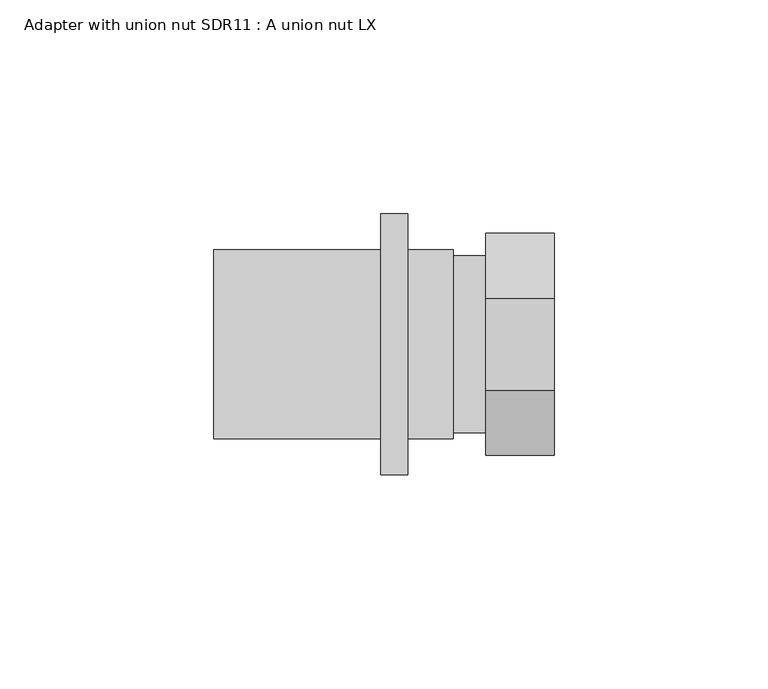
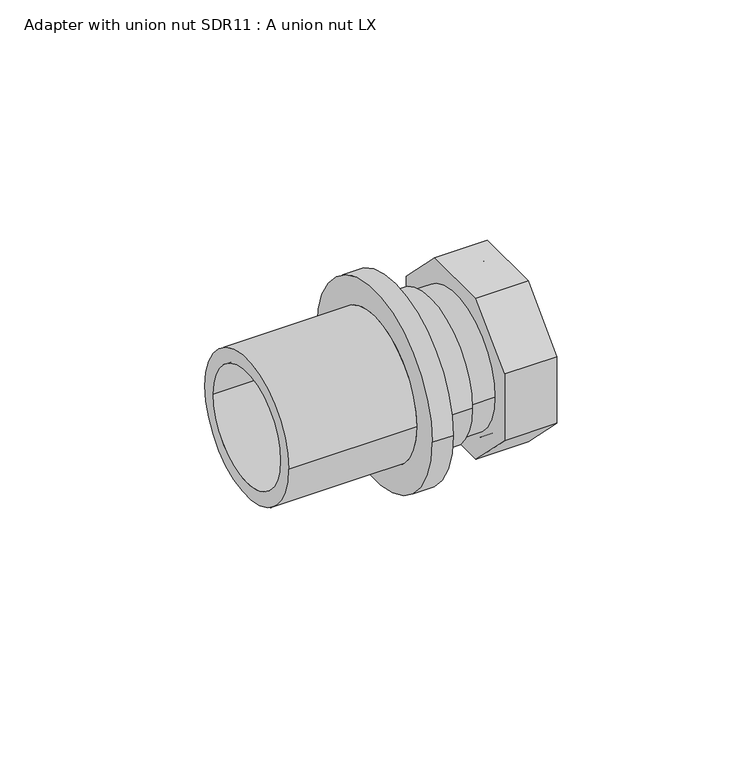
"""IFC4 building model written with IfcOpenShell, lengths in millimetres: pipe fitting geometry, Adapter with union nut SDR11 : A union nut LX."""

import ifcopenshell
import ifcopenshell.guid

model = None  # the IFC model being written
_history = None  # IfcOwnerHistory: only IFC2X3 demands one
_inside = {}  # id of a spatial element -> (the spatial element, [elements in it])
_under = {}  # id of a project, library or spatial element -> (it, [spatial elements below it])
_declared = {}  # id of a project -> (the project, [libraries it declares])
_typed = {}  # id of a type object -> (the type object, [elements of that type])
_made_of = {}  # id of a material, layer set ... -> (it, [elements and type objects made of it])


def new_model(schema):
    """Start an empty IFC model of exactly this schema.

    Asked for "IFC4X3", IfcOpenShell would pick the latest addendum, in which some entities
    have other attributes; the version numbers below select the first issue.
    IFC2X3 requires an IfcOwnerHistory on every rooted entity: one is made here for all.
    """
    global model, _history
    if schema == "IFC4X3":
        model = ifcopenshell.file(schema_version=(4, 3, 0, 0))
    else:
        model = ifcopenshell.file(schema=schema)
    _inside.clear()
    _under.clear()
    _declared.clear()
    _typed.clear()
    _made_of.clear()
    _history = None
    if model.schema == "IFC2X3":
        org = make("IfcOrganization", Name="unknown")
        user = make(
            "IfcPersonAndOrganization",
            ThePerson=make("IfcPerson", FamilyName="unknown"),
            TheOrganization=org,
        )
        app = make(
            "IfcApplication",
            ApplicationDeveloper=org,
            Version="unknown",
            ApplicationFullName="unknown",
            ApplicationIdentifier="unknown",
        )
        _history = make(
            "IfcOwnerHistory",
            OwningUser=user,
            OwningApplication=app,
            ChangeAction="ADDED",
            CreationDate=0,
        )
    return model


def make(cls, **values):
    """One entity of the class cls with the attributes given. An attribute that is None is left unset."""
    return model.create_entity(
        cls, **{name: value for name, value in values.items() if value is not None}
    )


def rooted(cls, **values):
    """An entity with a GlobalId (a new one), such as an element, a storey or a relation."""
    return make(cls, GlobalId=ifcopenshell.guid.new(), OwnerHistory=_history, **values)


def si_unit(unit_type, name, prefix=None):
    """IfcSIUnit, for example si_unit("LENGTHUNIT", "METRE", prefix="MILLI")."""
    return make("IfcSIUnit", UnitType=unit_type, Prefix=prefix, Name=name)


def assignment(units):
    """IfcUnitAssignment: the units of a project."""
    return None if units is None else make("IfcUnitAssignment", Units=units)


def point(xyz):
    """IfcCartesianPoint."""
    return None if xyz is None else make("IfcCartesianPoint", Coordinates=xyz)


def direction(xyz):
    """IfcDirection."""
    return None if xyz is None else make("IfcDirection", DirectionRatios=xyz)


def frame(location, z_axis=None, x_axis=None):
    """IfcAxis2Placement3D, a coordinate frame: its origin and axes. An axis left out is left unset."""
    return make(
        "IfcAxis2Placement3D",
        Location=point(location),
        Axis=direction(z_axis),
        RefDirection=direction(x_axis),
    )


def origin():
    """The frame at (0, 0, 0) with its axes left unset."""
    return frame((0.0, 0.0, 0.0))


def place(relative_to, where):
    """IfcLocalPlacement: puts the frame where relative to a parent placement (None: the world)."""
    return make(
        "IfcLocalPlacement", PlacementRelTo=relative_to, RelativePlacement=where
    )


def context(
    kind, dimensions, precision=None, world=None, true_north=None, identifier=None
):
    """IfcGeometricRepresentationContext, for example the 3D "Model" context."""
    return make(
        "IfcGeometricRepresentationContext",
        ContextIdentifier=identifier,
        ContextType=kind,
        CoordinateSpaceDimension=dimensions,
        Precision=precision,
        WorldCoordinateSystem=world,
        TrueNorth=true_north,
    )


def project(units=None, contexts=None):
    """IfcProject with its units and contexts."""
    return rooted(
        "IfcProject",
        Name="project",
        RepresentationContexts=contexts,
        UnitsInContext=assignment(units),
    )


def spatial(cls, under=None, at=None, **own):
    """A site, building, storey or space (cls), placed at a placement, below another one or the project."""
    s = rooted(cls, ObjectPlacement=at, **own)
    if under is not None:
        _under.setdefault(under.id(), (under, []))[1].append(s)
    return s


def polyline(points):
    """IfcPolyline through the points."""
    return make("IfcPolyline", Points=[point(p) for p in points])


def circle_curve(where, radius):
    """IfcCircle in the frame where."""
    return make("IfcCircle", Position=where, Radius=radius)


def shape(context_of_items, identifier, shape_type, items):
    """IfcShapeRepresentation: the items that make up one representation, for example the "Body"."""
    return make(
        "IfcShapeRepresentation",
        ContextOfItems=context_of_items,
        RepresentationIdentifier=identifier,
        RepresentationType=shape_type,
        Items=items,
    )


def source(mapping_origin, context_of_items, identifier, shape_type, items):
    """IfcRepresentationMap: a shape defined once, which mapped items show again and again."""
    return make(
        "IfcRepresentationMap",
        MappingOrigin=mapping_origin,
        MappedRepresentation=shape(context_of_items, identifier, shape_type, items),
    )


def transform(
    local_origin,
    x_axis=None,
    y_axis=None,
    z_axis=None,
    scale=None,
    scale2=None,
    scale3=None,
    uniform=True,
):
    """IfcCartesianTransformationOperator3D, or its non-uniform kind. x_axis, y_axis, z_axis: its Axis1, 2, 3."""
    if uniform:
        return make(
            "IfcCartesianTransformationOperator3D",
            Axis1=direction(x_axis),
            Axis2=direction(y_axis),
            LocalOrigin=point(local_origin),
            Scale=scale,
            Axis3=direction(z_axis),
        )
    return make(
        "IfcCartesianTransformationOperator3DnonUniform",
        Axis1=direction(x_axis),
        Axis2=direction(y_axis),
        LocalOrigin=point(local_origin),
        Scale=scale,
        Axis3=direction(z_axis),
        Scale2=scale2,
        Scale3=scale3,
    )


def mapped(mapping_source, mapping_target):
    """IfcMappedItem: shows the shape of a source again, moved by a transform."""
    return make(
        "IfcMappedItem", MappingSource=mapping_source, MappingTarget=mapping_target
    )


def made_of(thing, what):
    """Note that an element or type object is made of a material, layer set ...; save() writes the relation."""
    if what is not None:
        _made_of.setdefault(what.id(), (what, []))[1].append(thing)
    return thing


def element(
    cls,
    number,
    at=None,
    inside=None,
    cuts=None,
    type_object=None,
    material=None,
    context=None,
    identifier="Body",
    shape_type=None,
    held_by="IfcProductDefinitionShape",
    body=None,
    shapes=None,
    **own,
):
    """One element of the class cls, such as IfcWall. Its Tag is "e" and its number.

    at: its placement. inside: the storey or other place that contains it. cuts: it is an
    opening in that element (IfcRelVoidsElement). A single representation is given by context,
    identifier, shape_type and body (its items); several are given by shapes. held_by: the class
    of the entity that holds the representations. save() writes the other relations.
    """
    e = rooted(cls, Tag="e%d" % number, ObjectPlacement=at, **own)
    if body is not None:
        shapes = [shape(context, identifier, shape_type, body)]
    if shapes is not None:
        e.Representation = make(held_by, Representations=shapes)
    if inside is not None:
        _inside.setdefault(inside.id(), (inside, []))[1].append(e)
    if cuts is not None:
        rooted(
            "IfcRelVoidsElement", RelatingBuildingElement=cuts, RelatedOpeningElement=e
        )
    if type_object is not None:
        _typed.setdefault(type_object.id(), (type_object, []))[1].append(e)
    return made_of(e, material)


def aggregate(whole, parts):
    """IfcRelAggregates: a whole, such as a stair, and the parts it consists of."""
    return rooted("IfcRelAggregates", RelatingObject=whole, RelatedObjects=parts)


def save(model, path):
    """Write the relations noted so far, then the file.

    IfcRelAggregates (storeys below a building ...), IfcRelContainedInSpatialStructure (elements
    in a storey), IfcRelDefinesByType, IfcRelAssociatesMaterial and IfcRelDeclares: one each for
    every whole, place, type object, material and project.
    """
    for whole, parts in _under.values():
        aggregate(whole, parts)
    for where, things in _inside.values():
        rooted(
            "IfcRelContainedInSpatialStructure",
            RelatedElements=things,
            RelatingStructure=where,
        )
    for kind, things in _typed.values():
        rooted("IfcRelDefinesByType", RelatedObjects=things, RelatingType=kind)
    for what, things in _made_of.values():
        rooted("IfcRelAssociatesMaterial", RelatedObjects=things, RelatingMaterial=what)
    for by, libraries in _declared.values():
        rooted("IfcRelDeclares", RelatingContext=by, RelatedDefinitions=libraries)
    model.write(path)


def plane_surface(at):
    """IfcPlane: the flat surface through the origin of the frame at, square to its z axis."""
    return make("IfcPlane", Position=at)


def cylinder_surface(at, radius):
    """IfcCylindricalSurface: all points at the distance radius from the z axis of the frame at."""
    return make("IfcCylindricalSurface", Position=at, Radius=radius)


def revolved_surface(curve, axis_point, axis_direction):
    """IfcSurfaceOfRevolution: the curve turned about the line through axis_point along axis_direction."""
    return make(
        "IfcSurfaceOfRevolution",
        SweptCurve=make("IfcArbitraryOpenProfileDef", ProfileType="CURVE", Curve=curve),
        AxisPosition=make("IfcAxis1Placement", Location=point(axis_point), Axis=direction(axis_direction)),
    )


def advanced_brep(points, edges, surfaces, faces):
    """IfcAdvancedBrep: a solid bounded by faces that lie on surfaces and meet in shared edges.

    An edge is (start, end): straight between two places in points (the first is 0);
    or (start, end, curve); or (start, end, curve, False) where it runs against its curve.
    A face is (place in surfaces, loops), or (place, loops, False) where it looks against
    its surface's normal. A loop lists edges by number (the first is 1), with a minus sign
    where the edge is run from its end to its start. The first loop is the outer one.
    """
    corners = [point(p) for p in points]
    vertices = [make("IfcVertexPoint", VertexGeometry=c) for c in corners]
    made = []
    for start, end, *more in edges:
        made.append(
            make(
                "IfcEdgeCurve",
                EdgeStart=vertices[start],
                EdgeEnd=vertices[end],
                EdgeGeometry=more[0] if more else make("IfcPolyline", Points=[corners[start], corners[end]]),
                SameSense=more[1] if len(more) > 1 else True,
            )
        )
    hull = []
    for where, loops, *sense in faces:
        bounds = []
        for j, loop in enumerate(loops):
            ring = [make("IfcOrientedEdge", EdgeElement=made[abs(k) - 1], Orientation=k > 0) for k in loop]
            bounds.append(
                make(
                    "IfcFaceOuterBound" if j == 0 else "IfcFaceBound",
                    Bound=make("IfcEdgeLoop", EdgeList=ring),
                    Orientation=True,
                )
            )
        hull.append(make("IfcAdvancedFace", Bounds=bounds, FaceSurface=surfaces[where], SameSense=sense[0] if sense else True))
    return make("IfcAdvancedBrep", Outer=make("IfcClosedShell", CfsFaces=hull))


def adapter_with_union_nut_sdr11_a_union_nut_lx_88bdcbd4(model_context):
    return source(origin(), model_context, "Body", "AdvancedBrep", [
        advanced_brep(
        [(23.6, 22.0, 0.0), (23.6, -22.0, 0.0), (8.2, -22.0, 0.0), (8.2, 22.0, 0.0), (8.2, 20.7, 0.0), (8.2, -20.7, 0.0), (0.0, -20.7, 0.0), (0.0, 20.7, 0.0), (0.0, -17.75, 0.0), (0.0, 17.75, 0.0), (10.5, 20.7, 0.0), (10.5, -20.7, 0.0), (23.6, -20.7, 0.0), (23.6, 20.7, 0.0), (10.5, 17.75, 0.0), (10.5, -17.75, 0.0)],
        [
            (0, 1, circle_curve(frame((23.6, 0.0, 0.0), z_axis=(-1.0, 0.0, 0.0), x_axis=(0.0, -1.0, 0.0)), 22.0)),
            (1, 2),
            (2, 3, circle_curve(frame((8.2, 0.0, 0.0), z_axis=(1.0, 0.0, 0.0), x_axis=(0.0, -1.0, 0.0)), 22.0)),
            (3, 0),
            (4, 5, circle_curve(frame((8.2, 0.0, 0.0), z_axis=(-1.0, 0.0, 0.0), x_axis=(0.0, -1.0, 0.0)), 20.7)),
            (5, 6),
            (6, 7, circle_curve(frame((0.0, 0.0, 0.0), z_axis=(1.0, 0.0, 0.0), x_axis=(0.0, -1.0, 0.0)), 20.7)),
            (7, 4),
            (1, 0, circle_curve(frame((23.6, 0.0, 0.0), z_axis=(-1.0, 0.0, 0.0), x_axis=(0.0, 1.0, 0.0)), 22.0)),
            (3, 2, circle_curve(frame((8.2, 0.0, 0.0), z_axis=(1.0, 0.0, 0.0), x_axis=(0.0, 1.0, 0.0)), 22.0)),
            (6, 7, circle_curve(frame((0.0, 0.0, 0.0), z_axis=(-1.0, 0.0, 0.0), x_axis=(0.0, 1.0, 0.0)), 20.7)),
            (8, 9, circle_curve(frame((0.0, 0.0, 0.0), z_axis=(1.0, 0.0, 0.0), x_axis=(0.0, -1.0, 0.0)), 17.75)),
            (9, 8, circle_curve(frame((0.0, 0.0, 0.0), z_axis=(1.0, 0.0, 0.0), x_axis=(0.0, -1.0, 0.0)), 17.75)),
            (5, 4, circle_curve(frame((8.2, 0.0, 0.0), z_axis=(-1.0, 0.0, 0.0), x_axis=(0.0, 1.0, 0.0)), 20.7)),
            (10, 11, circle_curve(frame((10.5, 0.0, 0.0), z_axis=(-1.0, 0.0, 0.0), x_axis=(0.0, -1.0, 0.0)), 20.7)),
            (11, 12),
            (12, 13, circle_curve(frame((23.6, 0.0, 0.0), z_axis=(1.0, 0.0, 0.0), x_axis=(0.0, -1.0, 0.0)), 20.7)),
            (13, 10),
            (12, 13, circle_curve(frame((23.6, 0.0, 0.0), z_axis=(-1.0, 0.0, 0.0), x_axis=(0.0, 1.0, 0.0)), 20.7)),
            (11, 10, circle_curve(frame((10.5, 0.0, 0.0), z_axis=(-1.0, 0.0, 0.0), x_axis=(0.0, 1.0, 0.0)), 20.7)),
            (14, 15, circle_curve(frame((10.5, 0.0, 0.0), z_axis=(-1.0, 0.0, 0.0), x_axis=(0.0, -1.0, 0.0)), 17.75)),
            (15, 14, circle_curve(frame((10.5, 0.0, 0.0), z_axis=(-1.0, 0.0, 0.0), x_axis=(0.0, -1.0, 0.0)), 17.75)),
            (14, 9),
            (8, 15),
        ],
        [
            cylinder_surface(frame((0.0, 0.0, 0.0), z_axis=(1.0, 0.0, 0.0), x_axis=(0.0, -1.0, 0.0)), 22.0),
            cylinder_surface(frame((0.0, 0.0, 0.0), z_axis=(1.0, 0.0, 0.0), x_axis=(0.0, -1.0, 0.0)), 20.7),
            cylinder_surface(frame((0.0, 0.0, 0.0), z_axis=(1.0, 0.0, 0.0), x_axis=(0.0, 1.0, 0.0)), 22.0),
            plane_surface(frame((0.0, 0.0, 0.0), z_axis=(-1.0, 0.0, 0.0), x_axis=(0.0, 1.0, 0.0))),
            cylinder_surface(frame((0.0, 0.0, 0.0), z_axis=(1.0, 0.0, 0.0), x_axis=(0.0, 1.0, 0.0)), 20.7),
            plane_surface(frame((8.2, 0.0, 0.0), z_axis=(-1.0, 0.0, 0.0), x_axis=(0.0, 1.0, 0.0))),
            revolved_surface(polyline([(23.6, -20.7, 0.0), (10.5, -20.7, 0.0)]), (0.0, 0.0, 0.0), (1.0, 0.0, 0.0)),
            plane_surface(frame((23.6, 0.0, 0.0), z_axis=(1.0, 0.0, 0.0), x_axis=(0.0, 1.0, 0.0))),
            revolved_surface(polyline([(23.6, 20.7, 0.0), (10.5, 20.7, 0.0)]), (0.0, 0.0, 0.0), (1.0, 0.0, 0.0)),
            plane_surface(frame((10.5, 0.0, 0.0), z_axis=(1.0, 0.0, 0.0), x_axis=(0.0, 1.0, 0.0))),
            revolved_surface(polyline([(0.0, -17.75, 0.0), (10.5, -17.75, 0.0)]), (15.6, 0.0, 0.0), (-1.0, 0.0, 0.0)),
        ],
        [
            (0, [[1, 2, 3, 4]]),
            (1, [[5, 6, 7, 8]]),
            (2, [[-2, 9, -4, 10]]),
            (3, [[-7, 11], [12, 13]]),
            (4, [[-6, 14, -8, -11]]),
            (5, [[-3, -10], [-5, -14]]),
            (6, [[15, 16, 17, 18]]),
            (7, [[-1, -9], [-17, 19]]),
            (8, [[-16, 20, -18, -19]]),
            (9, [[-15, -20], [21, 22]]),
            (10, [[23, -12, 24, -21]]),
            (10, [[-23, -22, -24, -13]]),
        ],
    ),
        advanced_brep(
        [(23.6, -26.0, -10.7695526), (7.6, -26.0, -10.7695526), (7.6, -10.7695526, -26.0), (23.6, -10.7695526, -26.0), (7.6, 10.7695526, -26.0), (23.6, 10.7695526, -26.0), (7.6, 26.0, -10.7695526), (23.6, 26.0, -10.7695526), (23.6, 26.0, 10.7695526), (7.6, 26.0, 10.7695526), (7.6, 10.7695526, 26.0), (23.6, 10.7695526, 26.0), (7.6, -10.7695526, 26.0), (23.6, -10.7695526, 26.0), (7.6, -26.0, 10.7695526), (23.6, -26.0, 10.7695526), (15.6, 22.0, 0.0), (15.6, -22.0, 0.0), (15.6, 17.75, 0.0), (15.6, -17.75, 0.0), (23.6, -22.0, 0.0), (23.6, 22.0, 0.0), (7.6, 17.75, 0.0), (7.6, -17.75, 0.0)],
        [
            (0, 1),
            (1, 2),
            (2, 3),
            (3, 0),
            (2, 4),
            (4, 5),
            (5, 3),
            (4, 6),
            (6, 7),
            (7, 5),
            (8, 9),
            (9, 10),
            (10, 11),
            (11, 8),
            (10, 12),
            (12, 13),
            (13, 11),
            (12, 14),
            (14, 15),
            (15, 13),
            (16, 17, circle_curve(frame((15.6, 0.0, 0.0), z_axis=(1.0, 0.0, 0.0), x_axis=(0.0, -1.0, 0.0)), 22.0)),
            (17, 16, circle_curve(frame((15.6, 0.0, 0.0), z_axis=(1.0, 0.0, 0.0), x_axis=(0.0, -1.0, 0.0)), 22.0)),
            (18, 19, circle_curve(frame((15.6, 0.0, 0.0), z_axis=(-1.0, 0.0, 0.0), x_axis=(0.0, -1.0, 0.0)), 17.75)),
            (19, 18, circle_curve(frame((15.6, 0.0, 0.0), z_axis=(-1.0, 0.0, 0.0), x_axis=(0.0, -1.0, 0.0)), 17.75)),
            (17, 20),
            (20, 21, circle_curve(frame((23.6, 0.0, 0.0), z_axis=(1.0, 0.0, 0.0), x_axis=(0.0, -1.0, 0.0)), 22.0)),
            (21, 16),
            (21, 20, circle_curve(frame((23.6, 0.0, 0.0), z_axis=(1.0, 0.0, 0.0), x_axis=(0.0, -1.0, 0.0)), 22.0)),
            (18, 22),
            (22, 23, circle_curve(frame((7.6, 0.0, 0.0), z_axis=(-1.0, 0.0, 0.0), x_axis=(0.0, -1.0, 0.0)), 17.75)),
            (23, 19),
            (23, 22, circle_curve(frame((7.6, 0.0, 0.0), z_axis=(-1.0, 0.0, 0.0), x_axis=(0.0, -1.0, 0.0)), 17.75)),
            (6, 9),
            (8, 7),
            (1, 14),
            (0, 15),
        ],
        [
            plane_surface(frame((7.6, -26.0, -10.7695526), z_axis=(0.0, -0.7071067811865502, -0.7071067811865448), x_axis=(0.0, 0.7071067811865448, -0.7071067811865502))),
            plane_surface(frame((7.6, -10.7695526, -26.0), z_axis=(0.0, 0.0, -1.0), x_axis=(0.0, 1.0, 0.0))),
            plane_surface(frame((7.6, 10.7695526, -26.0), z_axis=(0.0, 0.7071067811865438, -0.7071067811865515), x_axis=(0.0, 0.7071067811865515, 0.7071067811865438))),
            plane_surface(frame((7.6, 26.0, 10.7695526), z_axis=(0.0, 0.707106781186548, 0.7071067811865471), x_axis=(0.0, -0.7071067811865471, 0.707106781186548))),
            plane_surface(frame((7.6, 10.7695526, 26.0), z_axis=(0.0, 0.0, 1.0), x_axis=(0.0, -1.0, 0.0))),
            plane_surface(frame((7.6, -10.7695526, 26.0), z_axis=(0.0, -0.7071067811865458, 0.7071067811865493), x_axis=(0.0, -0.7071067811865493, -0.7071067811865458))),
            plane_surface(frame((15.6, -22.0, 0.0), z_axis=(1.0, 0.0, 0.0), x_axis=(0.0, 0.0, 1.0))),
            revolved_surface(polyline([(15.600000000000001, -22.0, 0.0), (23.6, -22.0, 0.0)]), (45.0991925, 0.0, 0.0), (-1.0, 0.0, 0.0)),
            revolved_surface(polyline([(7.6, -17.75, 0.0), (15.6, -17.75, 0.0)]), (15.6, 0.0, 0.0), (-1.0, 0.0, 0.0)),
            plane_surface(frame((7.6, 26.0, -10.7695526), z_axis=(0.0, 1.0, 0.0), x_axis=(0.0, 0.0, 1.0))),
            plane_surface(frame((7.6, 0.0, 0.0), z_axis=(-1.0, 0.0, 0.0), x_axis=(0.0, 0.0, -1.0))),
            plane_surface(frame((7.6, -26.0, 10.7695526), z_axis=(0.0, -1.0, 0.0), x_axis=(0.0, 0.0, -1.0))),
            plane_surface(frame((23.6, -26.0, 10.7695526), z_axis=(1.0, 0.0, 0.0), x_axis=(0.0, 0.0, -1.0))),
        ],
        [
            (0, [[1, 2, 3, 4]]),
            (1, [[-3, 5, 6, 7]]),
            (2, [[-6, 8, 9, 10]]),
            (3, [[11, 12, 13, 14]]),
            (4, [[-13, 15, 16, 17]]),
            (5, [[-16, 18, 19, 20]]),
            (6, [[21, 22], [23, 24]]),
            (7, [[-22, 25, 26, 27]]),
            (7, [[-21, -27, 28, -25]]),
            (8, [[29, 30, 31, -23]]),
            (8, [[-29, -24, -31, 32]]),
            (9, [[-9, 33, -11, 34]]),
            (10, [[-2, 35, -18, -15, -12, -33, -8, -5], [-30, -32]]),
            (11, [[-1, 36, -19, -35]]),
            (12, [[-4, -7, -10, -34, -14, -17, -20, -36], [-26, -28]]),
        ],
    ),
        advanced_brep(
        [(-17.0, 22.15, 0.0), (-17.0, -22.15, 0.0), (-56.0, -22.15, 0.0), (-56.0, 22.15, 0.0), (-10.6, 30.5, 0.0), (-10.6, -30.5, 0.0), (-17.0, -30.5, 0.0), (-17.0, 30.5, 0.0), (0.0, 22.15, 0.0), (0.0, -22.15, 0.0), (-10.6, -22.15, 0.0), (-10.6, 22.15, 0.0), (-56.0, 17.75, 0.0), (-56.0, -17.75, 0.0), (-17.0, -17.75, 0.0), (0.0, -17.75, 0.0), (0.0, 17.75, 0.0), (-17.0, 17.75, 0.0)],
        [
            (0, 1, circle_curve(frame((-17.0, 0.0, 0.0), z_axis=(-1.0, 0.0, 0.0), x_axis=(0.0, -1.0, 0.0)), 22.15)),
            (1, 2),
            (2, 3, circle_curve(frame((-56.0, 0.0, 0.0), z_axis=(1.0, 0.0, 0.0), x_axis=(0.0, -1.0, 0.0)), 22.15)),
            (3, 0),
            (4, 5, circle_curve(frame((-10.6, 0.0, 0.0), z_axis=(-1.0, 0.0, 0.0), x_axis=(0.0, -1.0, 0.0)), 30.5)),
            (5, 6),
            (6, 7, circle_curve(frame((-17.0, 0.0, 0.0), z_axis=(1.0, 0.0, 0.0), x_axis=(0.0, -1.0, 0.0)), 30.5)),
            (7, 4),
            (8, 9, circle_curve(frame((0.0, 0.0, 0.0), z_axis=(-1.0, 0.0, 0.0), x_axis=(0.0, -1.0, 0.0)), 22.15)),
            (9, 10),
            (10, 11, circle_curve(frame((-10.6, 0.0, 0.0), z_axis=(1.0, 0.0, 0.0), x_axis=(0.0, -1.0, 0.0)), 22.15)),
            (11, 8),
            (12, 13, circle_curve(frame((-56.0, 0.0, 0.0), z_axis=(-1.0, 0.0, 0.0), x_axis=(0.0, -1.0, 0.0)), 17.75)),
            (13, 14),
            (14, 15),
            (15, 16, circle_curve(frame((0.0, 0.0, 0.0), z_axis=(1.0, 0.0, 0.0), x_axis=(0.0, -1.0, 0.0)), 17.75)),
            (16, 17),
            (17, 12),
            (2, 3, circle_curve(frame((-56.0, 0.0, 0.0), z_axis=(-1.0, 0.0, 0.0), x_axis=(0.0, 1.0, 0.0)), 22.15)),
            (12, 13, circle_curve(frame((-56.0, 0.0, 0.0), z_axis=(1.0, 0.0, 0.0), x_axis=(0.0, 1.0, 0.0)), 17.75)),
            (1, 0, circle_curve(frame((-17.0, 0.0, 0.0), z_axis=(-1.0, 0.0, 0.0), x_axis=(0.0, 1.0, 0.0)), 22.15)),
            (6, 7, circle_curve(frame((-17.0, 0.0, 0.0), z_axis=(-1.0, 0.0, 0.0), x_axis=(0.0, 1.0, 0.0)), 30.5)),
            (5, 4, circle_curve(frame((-10.6, 0.0, 0.0), z_axis=(-1.0, 0.0, 0.0), x_axis=(0.0, 1.0, 0.0)), 30.5)),
            (10, 11, circle_curve(frame((-10.6, 0.0, 0.0), z_axis=(-1.0, 0.0, 0.0), x_axis=(0.0, 1.0, 0.0)), 22.15)),
            (9, 8, circle_curve(frame((0.0, 0.0, 0.0), z_axis=(-1.0, 0.0, 0.0), x_axis=(0.0, 1.0, 0.0)), 22.15)),
            (15, 16, circle_curve(frame((0.0, 0.0, 0.0), z_axis=(-1.0, 0.0, 0.0), x_axis=(0.0, 1.0, 0.0)), 17.75)),
        ],
        [
            cylinder_surface(frame((0.0, 0.0, 0.0), z_axis=(1.0, 0.0, 0.0), x_axis=(0.0, -1.0, 0.0)), 22.15),
            cylinder_surface(frame((0.0, 0.0, 0.0), z_axis=(1.0, 0.0, 0.0), x_axis=(0.0, -1.0, 0.0)), 30.5),
            revolved_surface(polyline([(0.0, -17.75, 0.0), (-56.0, -17.75, 0.0)]), (0.0, 0.0, 0.0), (1.0, 0.0, 0.0)),
            plane_surface(frame((-56.0, 0.0, 0.0), z_axis=(-1.0, 0.0, 0.0), x_axis=(0.0, 1.0, 0.0))),
            cylinder_surface(frame((0.0, 0.0, 0.0), z_axis=(1.0, 0.0, 0.0), x_axis=(0.0, 1.0, 0.0)), 22.15),
            plane_surface(frame((-17.0, 0.0, 0.0), z_axis=(-1.0, 0.0, 0.0), x_axis=(0.0, 1.0, 0.0))),
            cylinder_surface(frame((0.0, 0.0, 0.0), z_axis=(1.0, 0.0, 0.0), x_axis=(0.0, 1.0, 0.0)), 30.5),
            plane_surface(frame((-10.6, 0.0, 0.0), z_axis=(1.0, 0.0, 0.0), x_axis=(0.0, 1.0, 0.0))),
            plane_surface(frame((0.0, 0.0, 0.0), z_axis=(1.0, 0.0, 0.0), x_axis=(0.0, 1.0, 0.0))),
            revolved_surface(polyline([(0.0, 17.75, 0.0), (-56.0, 17.75, 0.0)]), (0.0, 0.0, 0.0), (1.0, 0.0, 0.0)),
        ],
        [
            (0, [[1, 2, 3, 4]]),
            (1, [[5, 6, 7, 8]]),
            (0, [[9, 10, 11, 12]]),
            (2, [[13, 14, 15, 16, 17, 18]]),
            (3, [[-3, 19], [-13, 20]]),
            (4, [[-2, 21, -4, -19]]),
            (5, [[-7, 22], [-1, -21]]),
            (6, [[-6, 23, -8, -22]]),
            (7, [[-5, -23], [-11, 24]]),
            (4, [[-10, 25, -12, -24]]),
            (8, [[-9, -25], [-16, 26]]),
            (9, [[-20, -18, -17, -26, -15, -14]]),
        ],
    ),
    ])


if __name__ == "__main__":
    model = new_model("IFC4")
    model_context = context("Model", 3, world=origin())
    ifc_project = project(units=[si_unit("LENGTHUNIT", "METRE", prefix="MILLI")], contexts=[model_context])
    site = spatial("IfcSite", under=ifc_project)
    building = spatial("IfcBuilding", under=site)
    placement = place(None, origin())
    adapter_with_union_nut_sdr11_a_union_nut_lx_shape = adapter_with_union_nut_sdr11_a_union_nut_lx_88bdcbd4(model_context)
    element("IfcPipeFitting", 1, ObjectType="Adapter with union nut SDR11 : A union nut LX", at=placement, inside=building, context=model_context, shape_type="MappedRepresentation", body=[
        mapped(adapter_with_union_nut_sdr11_a_union_nut_lx_shape, transform((0.0, 0.0, 0.0), x_axis=(1.0, 0.0, 0.0), y_axis=(0.0, 1.0, 0.0), z_axis=(0.0, 0.0, 1.0))),
    ])
    save(model, "model.ifc")
